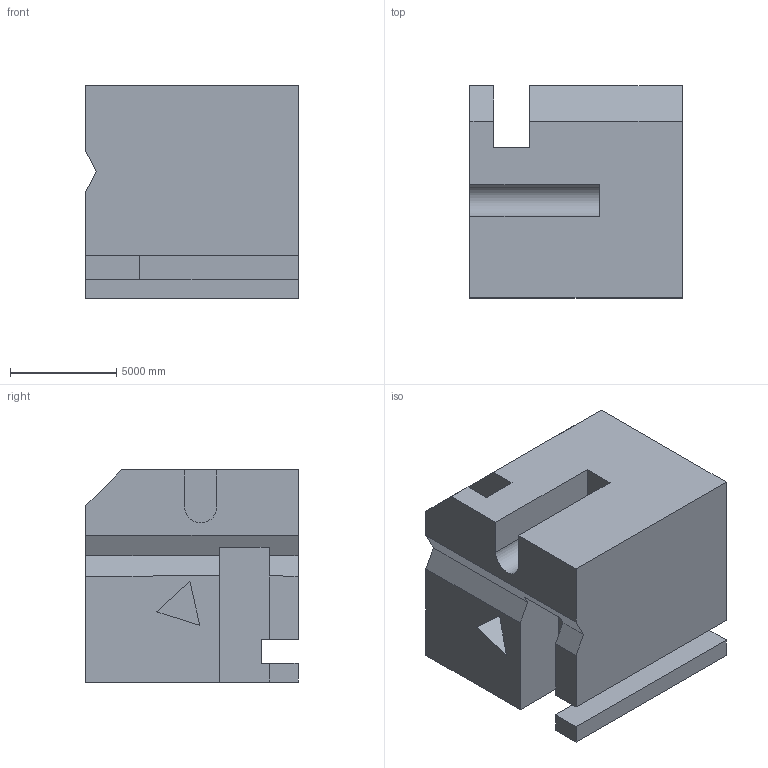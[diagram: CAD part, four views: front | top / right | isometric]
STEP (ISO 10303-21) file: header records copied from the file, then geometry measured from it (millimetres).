
FILE_DESCRIPTION (( 'STEP AP203' ), '1' );
FILE_NAME ('643.STEP', '2022-07-29T12:16:02', ( 'user' ), ( '' ), 'SwSTEP 2.0', 'SolidWorks 2021', '' );
FILE_SCHEMA (( 'CONFIG_CONTROL_DESIGN' ));
Length unit declared in the file: centimetre
Products named in the file (1): 643
Bounding box: 10000 x 10000 x 10000 mm (x, y, z)
Volume: 853498333576.2 mm3; surface area: 726756530.3 mm2
Topology: 1 solids, 1 shells, 35 faces, 96 edges, 64 vertices
Faces by surface type: plane 34, cylinder 1
Entity records: 1169 total; most frequent: CARTESIAN_POINT 196, ORIENTED_EDGE 192, DIRECTION 170, EDGE_CURVE 96, LINE 94, VECTOR 94, VERTEX_POINT 64, AXIS2_PLACEMENT_3D 38
